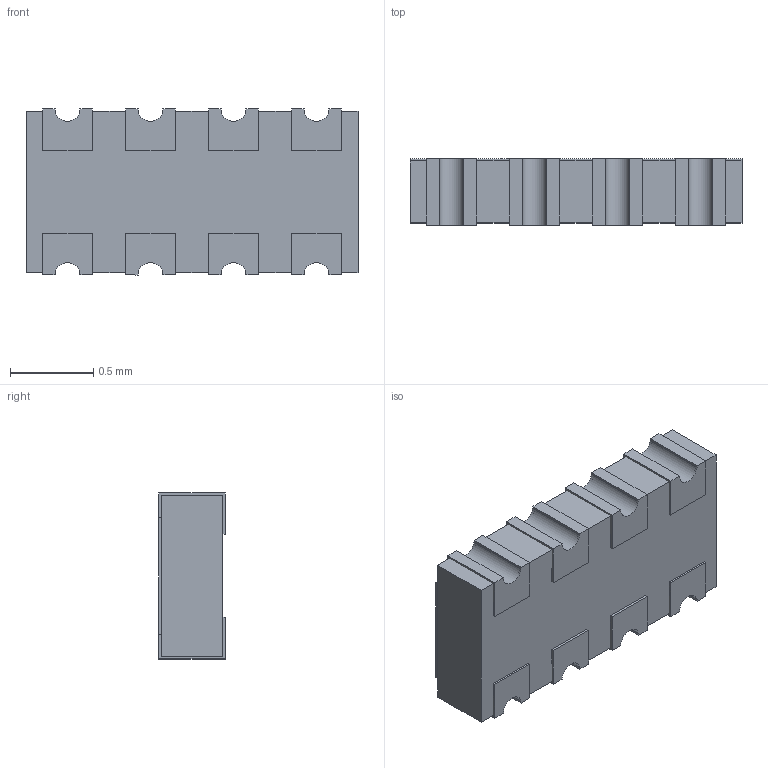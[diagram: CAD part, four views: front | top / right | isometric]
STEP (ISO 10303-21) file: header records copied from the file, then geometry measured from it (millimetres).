
FILE_DESCRIPTION(/* description */ (''),/* implementation_level */ '2;1');
FILE_NAME(/* name */ 'C:\Users\mulla\Documents\Work\SEI Models\Inventor Files\RACF\RACF104D_stp.stp',/* time_stamp */ '2019-08-03T21:44:46-04:00',/* author */ ('mulla'),/* organization */ (''),/* preprocessor_version */ 'ST-DEVELOPER v16.1',/* originating_system */ 'Autodesk Inventor 2016',/* authorisation */ '');
FILE_SCHEMA (('AUTOMOTIVE_DESIGN { 1 0 10303 214 3 1 1 }'));
Length unit declared in the file: millimetre
Products named in the file (1): RACF104D
Bounding box: 2 x 0.4 x 1 mm (x, y, z)
Volume: 0.8 mm3; surface area: 13.3 mm2
Topology: 10 solids, 10 shells, 108 faces, 264 edges, 176 vertices
Faces by surface type: plane 92, cylinder 16
Entity records: 3284 total; most frequent: CARTESIAN_POINT 549, ORIENTED_EDGE 528, DIRECTION 514, EDGE_CURVE 264, LINE 232, VECTOR 232, VERTEX_POINT 176, AXIS2_PLACEMENT_3D 141
